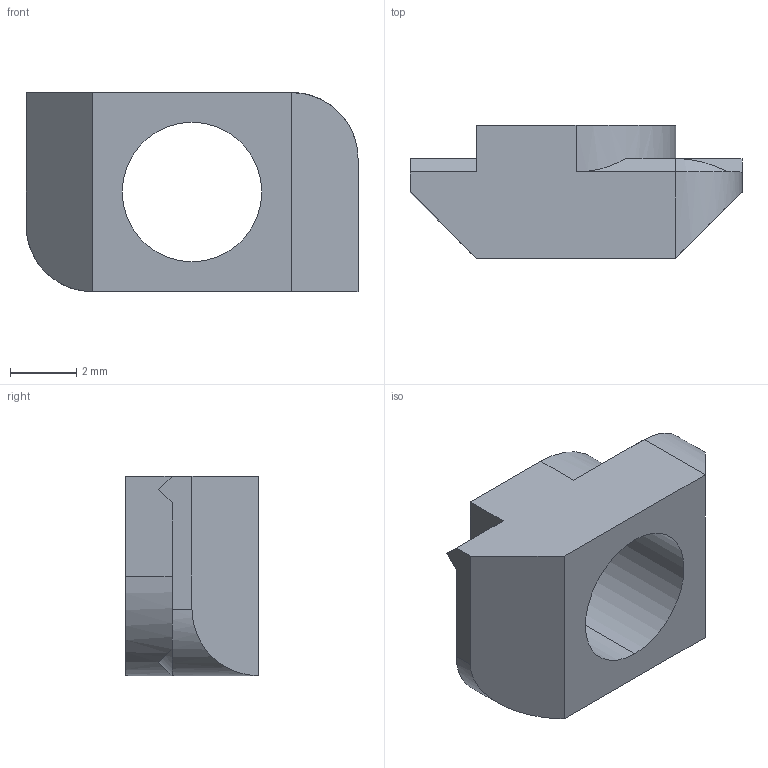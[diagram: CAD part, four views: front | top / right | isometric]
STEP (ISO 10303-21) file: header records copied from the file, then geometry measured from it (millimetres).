
FILE_DESCRIPTION (( 'STEP AP214' ), '1' );
FILE_NAME ('3.02.t.sp5.STEP', '2015-06-03T11:27:37', ( '' ), ( '' ), 'SwSTEP 2.0', 'SolidWorks 2015', '' );
FILE_SCHEMA (( 'AUTOMOTIVE_DESIGN' ));
Length unit declared in the file: millimetre
Products named in the file (1): 3.02.t.sp5
Bounding box: 10 x 4 x 6 mm (x, y, z)
Volume: 121.2 mm3; surface area: 234 mm2
Topology: 1 solids, 1 shells, 28 faces, 72 edges, 46 vertices
Faces by surface type: plane 20, cylinder 6, cone 2
Entity records: 906 total; most frequent: CARTESIAN_POINT 175, ORIENTED_EDGE 144, DIRECTION 134, EDGE_CURVE 72, VECTOR 52, LINE 52, VERTEX_POINT 46, AXIS2_PLACEMENT_3D 41
